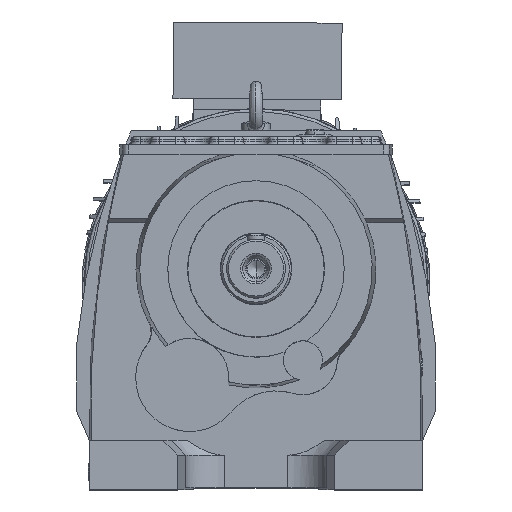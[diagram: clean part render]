
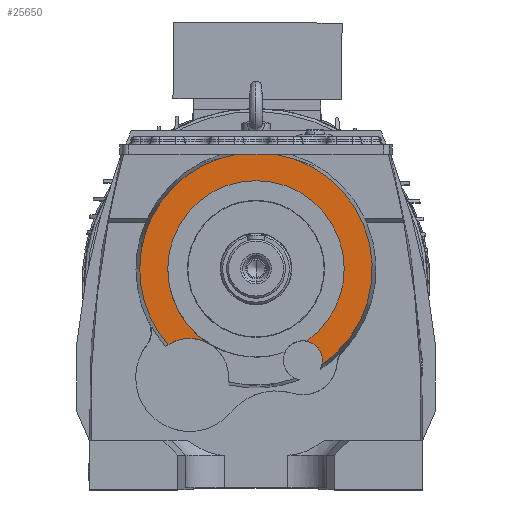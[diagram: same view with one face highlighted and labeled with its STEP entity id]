
A CAD part, top view. The second image highlights one B-rep face of the part: STEP entity #25650.
In plain terms, the highlighted planar face has unit normal (0, 0, 1).
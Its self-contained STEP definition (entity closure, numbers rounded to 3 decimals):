
#1219 = CARTESIAN_POINT ( 'NONE',  ( 0., 0., 204. ) ) ;
#1232 = DIRECTION ( 'NONE',  ( 0., 0., -1. ) ) ;
#1268 = DIRECTION ( 'NONE',  ( -1., 0., 0. ) ) ;
#1292 = DIRECTION ( 'NONE',  ( -1., 0., 0. ) ) ;
#1312 = CARTESIAN_POINT ( 'NONE',  ( 0., 0., 204. ) ) ;
#1338 = DIRECTION ( 'NONE',  ( 0., 0., -1. ) ) ;
#1391 = CARTESIAN_POINT ( 'NONE',  ( 47.859, -93.342, 204. ) ) ;
#1409 = DIRECTION ( 'NONE',  ( -1., 0., 0. ) ) ;
#1411 = DIRECTION ( 'NONE',  ( 0., 0., -1. ) ) ;
#3777 = ORIENTED_EDGE ( 'NONE', *, *, #17124, .F. ) ;
#3808 = ORIENTED_EDGE ( 'NONE', *, *, #17139, .T. ) ;
#3810 = ORIENTED_EDGE ( 'NONE', *, *, #17131, .T. ) ;
#3814 = ORIENTED_EDGE ( 'NONE', *, *, #17211, .T. ) ;
#3868 = ORIENTED_EDGE ( 'NONE', *, *, #20475, .F. ) ;
#3869 = ORIENTED_EDGE ( 'NONE', *, *, #20394, .T. ) ;
#3876 = ORIENTED_EDGE ( 'NONE', *, *, #17205, .T. ) ;
#3879 = ORIENTED_EDGE ( 'NONE', *, *, #20434, .T. ) ;
#3881 = ORIENTED_EDGE ( 'NONE', *, *, #20479, .F. ) ;
#3882 = ORIENTED_EDGE ( 'NONE', *, *, #20332, .T. ) ;
#17124 = EDGE_CURVE ( 'NONE', #24291, #24241, #33693, .T. ) ;
#17131 = EDGE_CURVE ( 'NONE', #24281, #24243, #33745, .T. ) ;
#17139 = EDGE_CURVE ( 'NONE', #24051, #24199, #33233, .T. ) ;
#17205 = EDGE_CURVE ( 'NONE', #24203, #24281, #33276, .T. ) ;
#17211 = EDGE_CURVE ( 'NONE', #24199, #24187, #33320, .T. ) ;
#17810 = DIRECTION ( 'NONE',  ( -1., 0., 0. ) ) ;
#17815 = CARTESIAN_POINT ( 'NONE',  ( -137., 117., 204. ) ) ;
#17885 = DIRECTION ( 'NONE',  ( 0., 0., -1. ) ) ;
#17890 = DIRECTION ( 'NONE',  ( -1., 0., 0. ) ) ;
#17897 = CARTESIAN_POINT ( 'NONE',  ( 0., 0., 204. ) ) ;
#17913 = CARTESIAN_POINT ( 'NONE',  ( 0., 0., 204. ) ) ;
#17918 = DIRECTION ( 'NONE',  ( -1., 0., 0. ) ) ;
#17920 = DIRECTION ( 'NONE',  ( 0., 0., -1. ) ) ;
#18652 = DIRECTION ( 'NONE',  ( -1., 0., 0. ) ) ;
#18668 = CARTESIAN_POINT ( 'NONE',  ( 0., 0., 204. ) ) ;
#18669 = DIRECTION ( 'NONE',  ( 0., 0., -1. ) ) ;
#18760 = CARTESIAN_POINT ( 'NONE',  ( -67.814, -110.911, 204. ) ) ;
#18780 = DIRECTION ( 'NONE',  ( -1., 0., 0. ) ) ;
#18795 = DIRECTION ( 'NONE',  ( 0., 0., -1. ) ) ;
#19568 = PLANE ( 'NONE',  #56820 ) ;
#19569 = CARTESIAN_POINT ( 'NONE',  ( 0., 0., 204. ) ) ;
#19643 = DIRECTION ( 'NONE',  ( 1., 0., 0. ) ) ;
#19649 = DIRECTION ( 'NONE',  ( 0., 0., 1. ) ) ;
#20332 = EDGE_CURVE ( 'NONE', #24243, #24051, #53325, .T. ) ;
#20394 = EDGE_CURVE ( 'NONE', #24291, #24203, #53148, .T. ) ;
#20434 = EDGE_CURVE ( 'NONE', #24839, #24968, #53200, .T. ) ;
#20475 = EDGE_CURVE ( 'NONE', #24241, #24968, #53220, .T. ) ;
#20479 = EDGE_CURVE ( 'NONE', #24839, #24187, #53250, .T. ) ;
#24051 = VERTEX_POINT ( 'NONE', #55030 ) ;
#24187 = VERTEX_POINT ( 'NONE', #55051 ) ;
#24199 = VERTEX_POINT ( 'NONE', #55096 ) ;
#24203 = VERTEX_POINT ( 'NONE', #55054 ) ;
#24241 = VERTEX_POINT ( 'NONE', #55087 ) ;
#24243 = VERTEX_POINT ( 'NONE', #55088 ) ;
#24281 = VERTEX_POINT ( 'NONE', #55113 ) ;
#24291 = VERTEX_POINT ( 'NONE', #55158 ) ;
#24839 = VERTEX_POINT ( 'NONE', #55445 ) ;
#24968 = VERTEX_POINT ( 'NONE', #55513 ) ;
#25650 = ADVANCED_FACE ( 'NONE', ( #49618 ), #19568, .T. ) ;
#33233 = CIRCLE ( 'NONE', #57069, 20. ) ;
#33276 = CIRCLE ( 'NONE', #57058, 90. ) ;
#33320 = CIRCLE ( 'NONE', #57067, 20. ) ;
#33693 = CIRCLE ( 'NONE', #57064, 118.622 ) ;
#33745 = CIRCLE ( 'NONE', #57059, 90. ) ;
#40667 = EDGE_LOOP ( 'NONE', ( #3777, #3869, #3876, #3810, #3882, #3808, #3814, #3881, #3879, #3868 ) ) ;
#47476 = CARTESIAN_POINT ( 'NONE',  ( 0., 0., 204. ) ) ;
#47479 = DIRECTION ( 'NONE',  ( 0., 0., -1. ) ) ;
#47481 = DIRECTION ( 'NONE',  ( -1., 0., 0. ) ) ;
#47496 = DIRECTION ( 'NONE',  ( 0., 0., -1. ) ) ;
#47559 = CARTESIAN_POINT ( 'NONE',  ( 47.859, -93.342, 204. ) ) ;
#47587 = DIRECTION ( 'NONE',  ( -1., 0., 0. ) ) ;
#49618 = FACE_OUTER_BOUND ( 'NONE', #40667, .T. ) ;
#53148 = CIRCLE ( 'NONE', #57307, 40. ) ;
#53182 = VECTOR ( 'NONE', #17810, 1000. ) ;
#53200 = LINE ( 'NONE', #17815, #53182 ) ;
#53220 = CIRCLE ( 'NONE', #57283, 118.622 ) ;
#53250 = CIRCLE ( 'NONE', #57284, 118.622 ) ;
#53325 = CIRCLE ( 'NONE', #57325, 90. ) ;
#55030 = CARTESIAN_POINT ( 'NONE',  ( 51.649, -73.705, 204. ) ) ;
#55051 = CARTESIAN_POINT ( 'NONE',  ( 67.397, -97.615, 204. ) ) ;
#55054 = CARTESIAN_POINT ( 'NONE',  ( -46.948, -76.784, 204. ) ) ;
#55087 = CARTESIAN_POINT ( 'NONE',  ( -118.622, 0., 204. ) ) ;
#55088 = CARTESIAN_POINT ( 'NONE',  ( 90., 0., 204. ) ) ;
#55096 = CARTESIAN_POINT ( 'NONE',  ( 67.859, -93.342, 204. ) ) ;
#55113 = CARTESIAN_POINT ( 'NONE',  ( -90., 0., 204. ) ) ;
#55158 = CARTESIAN_POINT ( 'NONE',  ( -89.806, -77.499, 204. ) ) ;
#55445 = CARTESIAN_POINT ( 'NONE',  ( 19.548, 117., 204. ) ) ;
#55513 = CARTESIAN_POINT ( 'NONE',  ( -19.548, 117., 204. ) ) ;
#56820 = AXIS2_PLACEMENT_3D ( 'NONE', #19569, #19649, #19643 ) ;
#57058 = AXIS2_PLACEMENT_3D ( 'NONE', #47476, #47479, #47481 ) ;
#57059 = AXIS2_PLACEMENT_3D ( 'NONE', #1312, #1338, #1292 ) ;
#57064 = AXIS2_PLACEMENT_3D ( 'NONE', #1219, #1232, #1268 ) ;
#57067 = AXIS2_PLACEMENT_3D ( 'NONE', #47559, #47496, #47587 ) ;
#57069 = AXIS2_PLACEMENT_3D ( 'NONE', #1391, #1411, #1409 ) ;
#57283 = AXIS2_PLACEMENT_3D ( 'NONE', #17913, #17920, #17890 ) ;
#57284 = AXIS2_PLACEMENT_3D ( 'NONE', #17897, #17885, #17918 ) ;
#57307 = AXIS2_PLACEMENT_3D ( 'NONE', #18760, #18795, #18780 ) ;
#57325 = AXIS2_PLACEMENT_3D ( 'NONE', #18668, #18669, #18652 ) ;
